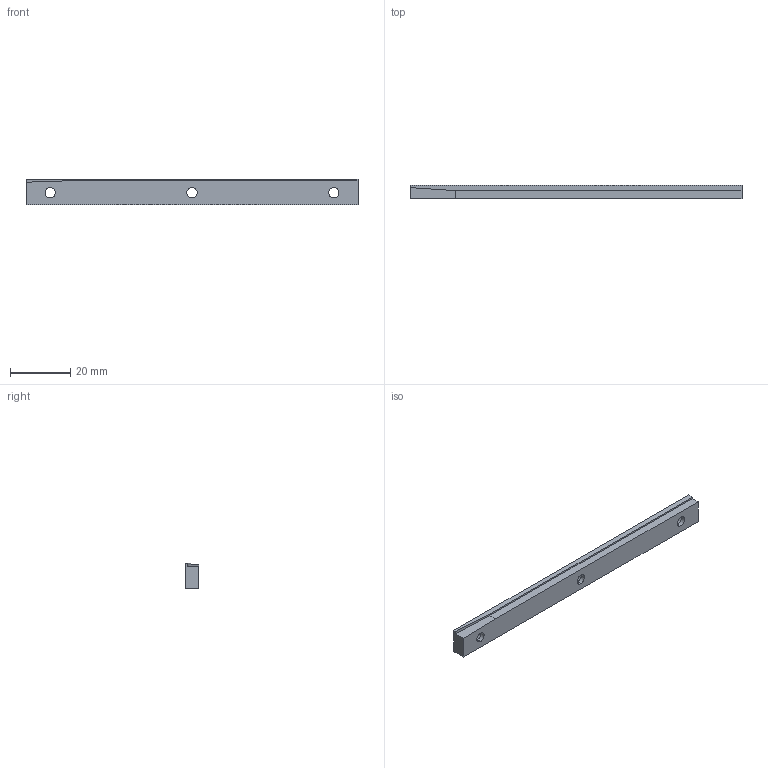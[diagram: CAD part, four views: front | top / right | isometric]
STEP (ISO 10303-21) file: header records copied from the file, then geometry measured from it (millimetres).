
FILE_DESCRIPTION (( 'STEP AP214' ), '1' );
FILE_NAME ('MBCO-00-03-003 棠釱ヶ傷揤啣.STEP', '2026-08-19T10:39:24', ( '' ), ( '' ), 'SwSTEP 2.0', 'SolidWorks 2022', '' );
FILE_SCHEMA (( 'AUTOMOTIVE_DESIGN' ));
Length unit declared in the file: millimetre
Products named in the file (1): MBCO-00-03-003 磁座前端压板
Bounding box: 110 x 4.5 x 8.5 mm (x, y, z)
Volume: 3747.3 mm3; surface area: 3094.7 mm2
Topology: 1 solids, 1 shells, 25 faces, 59 edges, 39 vertices
Faces by surface type: plane 13, cylinder 12
Entity records: 775 total; most frequent: DIRECTION 135, CARTESIAN_POINT 124, ORIENTED_EDGE 118, EDGE_CURVE 59, AXIS2_PLACEMENT_3D 50, VERTEX_POINT 39, VECTOR 35, LINE 35
